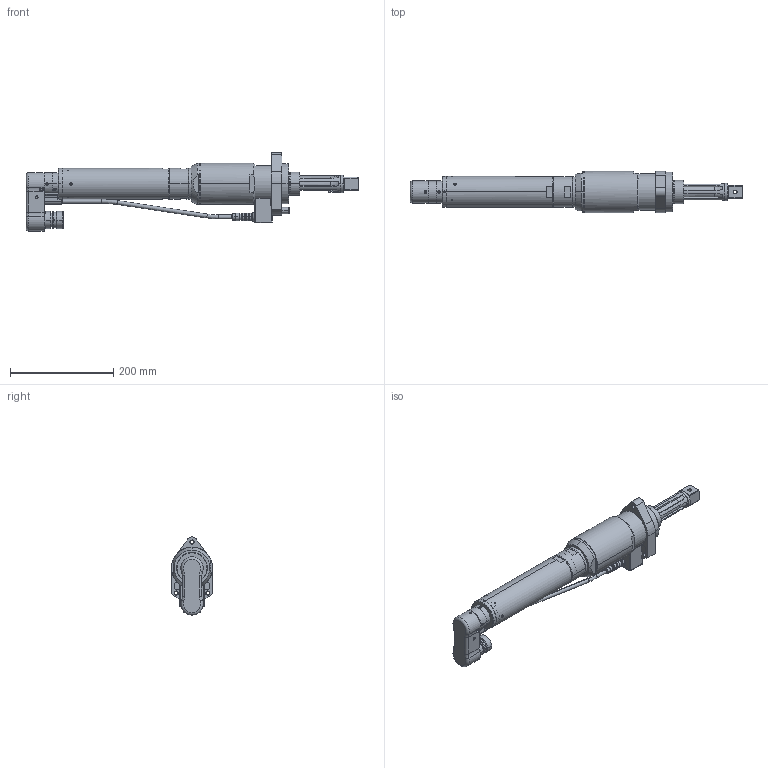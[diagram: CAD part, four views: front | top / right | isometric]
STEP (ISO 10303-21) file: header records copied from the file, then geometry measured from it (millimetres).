
FILE_DESCRIPTION((''),'2;1');
FILE_NAME('6151654350_ASM','2010-07-20T',('sdanet'),(''),'PRO/ENGINEER BY PARAMETRIC TECHNOLOGY CORPORATION, 2009300','PRO/ENGINEER BY PARAMETRIC TECHNOLOGY CORPORATION, 2009300','');
FILE_SCHEMA(('AUTOMOTIVE_DESIGN_CC2 { 1 2 10303 214 -1 1 5 2 }'));
Length unit declared in the file: millimetre
Products named in the file (22): 6155651162_TRUE; 6155651160_ASM; 6156190350; 6155960460; 6155960420; 6155960440; 6155961690; 6155961670; 6156110280; 6159381060; 6159381060_ASM; 6156100190; 6156100520; 6156100430; 6156101200; 6156180180; 6159175500_ASM; 6153942560_ASM; EM80-20J_PARTIE_AVANT; LEMO_10PTS; PRT0002; 6151654350_ASM
Assembly tree (36 placements, depth 4):
  6151654350_ASM
    6153942560_ASM
      6155651160_ASM
        6155651162_TRUE
      6156190350  x3
      6155960460
      6155960420
      6155960440
      6155961690
      6155961670
      6156110280  x6
      6159381060_ASM
        6159381060
      6156100190  x4
      6156100520  x3
      6156100430  x2
      6156101200  x2
      6156180180  x2
      6159175500_ASM
    EM80-20J_PARTIE_AVANT
    LEMO_10PTS
    PRT0002
Bounding box: 643 x 80 x 151.46 mm (x, y, z)
Volume: 1444966.2 mm3; surface area: 285609.6 mm2
Topology: 32 solids, 50 shells, 1155 faces, 2832 edges, 1764 vertices
Faces by surface type: plane 452, cylinder 412, cone 212, torus 74, sphere 4, bspline 1
Entity records: 32478 total; most frequent: CARTESIAN_POINT 6616, DIRECTION 4778, ORIENTED_EDGE 4188, EDGE_CURVE 2148, AXIS2_PLACEMENT_3D 1899, VERTEX_POINT 1366, PRESENTATION_STYLE_ASSIGNMENT 1158, STYLED_ITEM 1158
